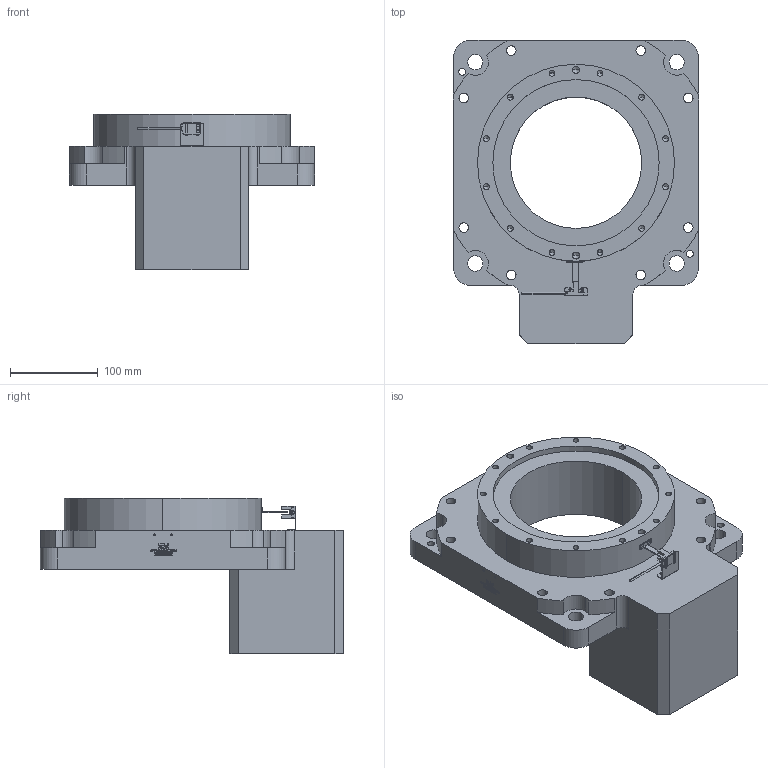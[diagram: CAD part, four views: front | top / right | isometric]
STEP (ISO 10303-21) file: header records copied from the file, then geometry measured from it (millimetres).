
FILE_DESCRIPTION (( 'STEP AP214' ), '1' );
FILE_NAME ('GT280-C-18-24-110-145-M8.STEP', '2024-07-04T07:31:28', ( '' ), ( '' ), 'SwSTEP 2.0', 'SolidWorks 2021', '' );
FILE_SCHEMA (( 'AUTOMOTIVE_DESIGN' ));
Length unit declared in the file: millimetre
Products named in the file (1): GT280-C-18-24-110-145-M8
Bounding box: 280 x 346.5 x 178 mm (x, y, z)
Volume: 5064273.8 mm3; surface area: 339735.9 mm2
Topology: 4 solids, 6 shells, 816 faces, 2214 edges, 1432 vertices
Faces by surface type: plane 556, cylinder 150, bspline 58, cone 52
Entity records: 29371 total; most frequent: CARTESIAN_POINT 5663, ORIENTED_EDGE 4324, DIRECTION 3802, EDGE_CURVE 2162, LINE 1684, VECTOR 1684, VERTEX_POINT 1432, AXIS2_PLACEMENT_3D 1059
